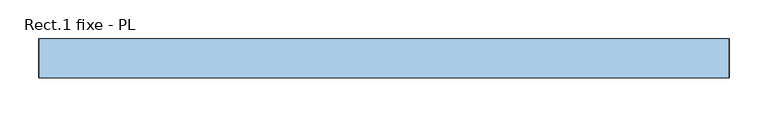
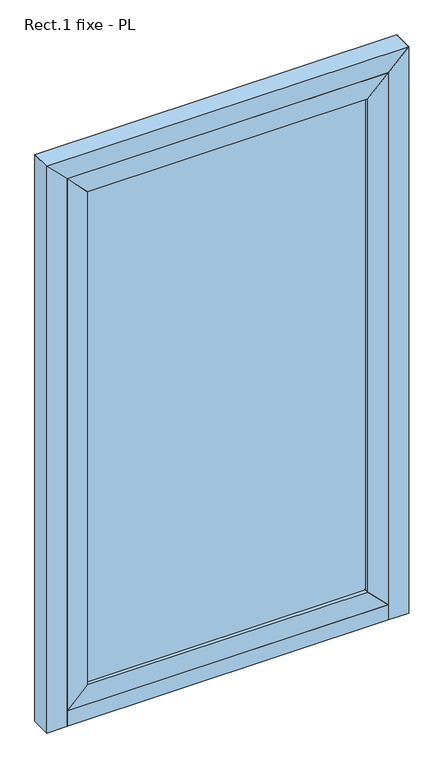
"""IFC4 building model written with IfcOpenShell, lengths in millimetres: window geometry, Rect.1 fixe - PL : 89*146."""

from ifc_helpers import new_model, si_unit, frame, origin, origin_with_axes, place, context, project, spatial, polyline, outline, extrude, source, transform, mapped, element, save


def rect_1_fixe_pl_7e915a0d(model_context):
    return source(origin(), model_context, "Body", "SweptSolid", [
        extrude(outline(polyline([(344.15, 10.0), (-344.15, 10.0), (-344.15, 30.0), (344.15, 30.0), (344.15, 10.0)])), frame((0.0, 0.0, 90.0), z_axis=(0.0, 0.0, 1.0), x_axis=(1.0, 0.0, 0.0)), (0.0, 0.0, 1.0), 1280.0),
        extrude(outline(polyline([(40.0, -394.15), (90.0, -344.15), (1370.0, -344.15), (1420.0, -394.15), (40.0, -394.15)])), frame((0.0, 0.0, 0.0), z_axis=(0.0, 1.0, 0.0), x_axis=(0.0, 0.0, 1.0)), (0.0, 0.0, 1.0), 40.0),
        extrude(outline(polyline([(90.0, 344.15), (40.0, 394.15), (1420.0, 394.15), (1370.0, 344.15), (90.0, 344.15)])), frame((0.0, 0.0, 0.0), z_axis=(0.0, 1.0, 0.0), x_axis=(0.0, 0.0, 1.0)), (0.0, 0.0, 1.0), 40.0),
        extrude(outline(polyline([(1420.0, 394.15), (1420.0, -394.15), (1370.0, -344.15), (1370.0, 344.15), (1420.0, 394.15)])), frame((0.0, 0.0, 0.0), z_axis=(0.0, 1.0, 0.0), x_axis=(0.0, 0.0, 1.0)), (0.0, 0.0, 1.0), 40.0),
        extrude(outline(polyline([(40.0, 394.15), (90.0, 344.15), (90.0, -344.15), (40.0, -394.15), (40.0, 394.15)])), frame((0.0, 0.0, 0.0), z_axis=(0.0, 1.0, 0.0), x_axis=(0.0, 0.0, 1.0)), (0.0, 0.0, 1.0), 40.0),
        extrude(outline(polyline([(394.15, 50.0), (394.15, 0.0), (-394.15, 0.0), (-394.15, 50.0), (394.15, 50.0)])), origin_with_axes(), (0.0, 0.0, 1.0), 40.0),
        extrude(outline(polyline([(20.0, 30.0), (50.0, 40.0), (50.0, 0.0), (20.0, 0.0), (20.0, 30.0)])), frame((-414.15, 0.0, 0.0), z_axis=(1.0, 0.0, 0.0), x_axis=(0.0, 1.0, 0.0)), (0.0, 0.0, 1.0), 828.3),
        extrude(outline(polyline([(1450.0, -424.15), (0.0, -424.15), (0.0, -414.15), (1440.0, -414.15), (1450.0, -424.15)])), frame((0.0, 10.0, 0.0), z_axis=(0.0, 1.0, 0.0), x_axis=(0.0, 0.0, 1.0)), (0.0, 0.0, 1.0), 40.0),
        extrude(outline(polyline([(1450.0, 424.15), (1440.0, 414.15), (0.0, 414.15), (0.0, 424.15), (1450.0, 424.15)])), frame((0.0, 10.0, 0.0), z_axis=(0.0, 1.0, 0.0), x_axis=(0.0, 0.0, 1.0)), (0.0, 0.0, 1.0), 40.0),
        extrude(outline(polyline([(0.0, -444.15), (0.0, -394.15), (1420.0, -394.15), (1470.0, -444.15), (0.0, -444.15)])), frame((0.0, 0.0, 0.0), z_axis=(0.0, 1.0, 0.0), x_axis=(0.0, 0.0, 1.0)), (0.0, 0.0, 1.0), 50.0),
        extrude(outline(polyline([(0.0, 444.15), (1470.0, 444.15), (1420.0, 394.15), (0.0, 394.15), (0.0, 444.15)])), frame((0.0, 0.0, 0.0), z_axis=(0.0, 1.0, 0.0), x_axis=(0.0, 0.0, 1.0)), (0.0, 0.0, 1.0), 50.0),
        extrude(outline(polyline([(1450.0, -424.15), (1440.0, -414.15), (1440.0, 414.15), (1450.0, 424.15), (1450.0, -424.15)])), frame((0.0, 10.0, 0.0), z_axis=(0.0, 1.0, 0.0), x_axis=(0.0, 0.0, 1.0)), (0.0, 0.0, 1.0), 40.0),
        extrude(outline(polyline([(1470.0, 444.15), (1470.0, -444.15), (1420.0, -394.15), (1420.0, 394.15), (1470.0, 444.15)])), frame((0.0, 0.0, 0.0), z_axis=(0.0, 1.0, 0.0), x_axis=(0.0, 0.0, 1.0)), (0.0, 0.0, 1.0), 50.0),
    ])


if __name__ == "__main__":
    model = new_model("IFC4")
    model_context = context("Model", 3, world=origin())
    ifc_project = project(units=[si_unit("LENGTHUNIT", "METRE", prefix="MILLI")], contexts=[model_context])
    site = spatial("IfcSite", under=ifc_project)
    building = spatial("IfcBuilding", under=site)
    placement = place(None, origin())
    rect_1_fixe_pl_shape = rect_1_fixe_pl_7e915a0d(model_context)
    element("IfcWindow", 1, ObjectType="Rect.1 fixe - PL : 89*146", at=placement, inside=building, context=model_context, shape_type="MappedRepresentation", body=[
        mapped(rect_1_fixe_pl_shape, transform((0.0, 0.0, 0.0), x_axis=(1.0, 0.0, 0.0), y_axis=(0.0, 1.0, 0.0), z_axis=(0.0, 0.0, 1.0))),
    ])
    save(model, "model.ifc")
